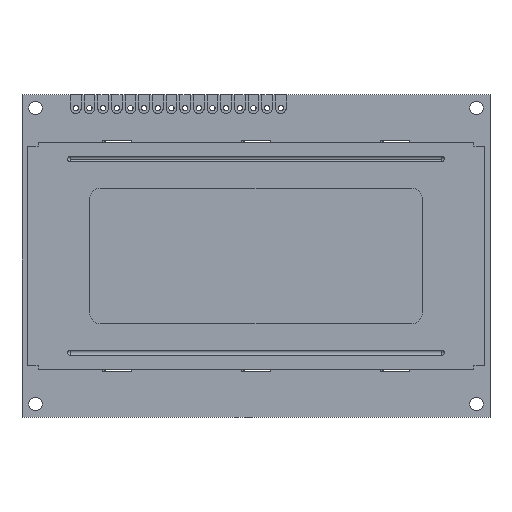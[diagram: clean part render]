
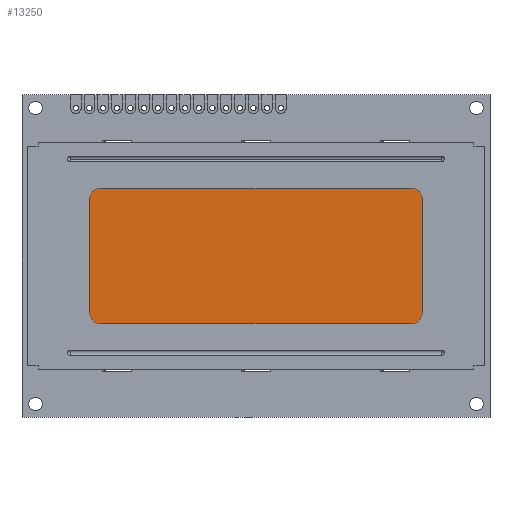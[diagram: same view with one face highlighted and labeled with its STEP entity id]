
A CAD part, top view. The second image highlights one B-rep face of the part: STEP entity #13250.
In plain terms, the highlighted planar face has unit normal (0, 0, 1).
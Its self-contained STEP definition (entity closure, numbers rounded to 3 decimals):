
#143 = DIRECTION ( 'NONE',  ( 1., 0., 0. ) ) ;
#250 = VERTEX_POINT ( 'NONE', #14535 ) ;
#390 = ORIENTED_EDGE ( 'NONE', *, *, #10692, .T. ) ;
#470 = CIRCLE ( 'NONE', #5557, 2. ) ;
#552 = DIRECTION ( 'NONE',  ( 0., 0., 1. ) ) ;
#768 = DIRECTION ( 'NONE',  ( 1., 0., 0. ) ) ;
#903 = CARTESIAN_POINT ( 'NONE',  ( 74.4, 40.6, 9.2 ) ) ;
#996 = VERTEX_POINT ( 'NONE', #13838 ) ;
#1124 = VERTEX_POINT ( 'NONE', #7787 ) ;
#1289 = CARTESIAN_POINT ( 'NONE',  ( 14.6, 40.6, 9.2 ) ) ;
#1362 = ORIENTED_EDGE ( 'NONE', *, *, #3674, .T. ) ;
#1407 = CARTESIAN_POINT ( 'NONE',  ( 72.4, 42.6, 9.2 ) ) ;
#1479 = LINE ( 'NONE', #14284, #11550 ) ;
#1562 = AXIS2_PLACEMENT_3D ( 'NONE', #6258, #11196, #768 ) ;
#1619 = PLANE ( 'NONE',  #1562 ) ;
#1673 = CIRCLE ( 'NONE', #11869, 2. ) ;
#1827 = CARTESIAN_POINT ( 'NONE',  ( 14.6, 19.4, 9.2 ) ) ;
#1930 = CIRCLE ( 'NONE', #6315, 2. ) ;
#2094 = VECTOR ( 'NONE', #4284, 1000. ) ;
#2444 = VERTEX_POINT ( 'NONE', #903 ) ;
#2756 = ORIENTED_EDGE ( 'NONE', *, *, #11340, .T. ) ;
#3065 = LINE ( 'NONE', #14748, #2094 ) ;
#3674 = EDGE_CURVE ( 'NONE', #11141, #250, #8217, .T. ) ;
#3748 = DIRECTION ( 'NONE',  ( 0., 0., 1. ) ) ;
#3841 = VERTEX_POINT ( 'NONE', #4202 ) ;
#3927 = ORIENTED_EDGE ( 'NONE', *, *, #11553, .T. ) ;
#4033 = AXIS2_PLACEMENT_3D ( 'NONE', #11740, #3748, #4807 ) ;
#4066 = CARTESIAN_POINT ( 'NONE',  ( 12.6, 19.4, 9.2 ) ) ;
#4202 = CARTESIAN_POINT ( 'NONE',  ( 72.4, 17.4, 9.2 ) ) ;
#4275 = VERTEX_POINT ( 'NONE', #4066 ) ;
#4284 = DIRECTION ( 'NONE',  ( 0., 1., 0. ) ) ;
#4726 = DIRECTION ( 'NONE',  ( 0., -1., 0. ) ) ;
#4807 = DIRECTION ( 'NONE',  ( 1., 0., 0. ) ) ;
#5156 = CARTESIAN_POINT ( 'NONE',  ( 12.6, 17.4, 9.2 ) ) ;
#5171 = DIRECTION ( 'NONE',  ( 1., 0., 0. ) ) ;
#5218 = ORIENTED_EDGE ( 'NONE', *, *, #14363, .T. ) ;
#5557 = AXIS2_PLACEMENT_3D ( 'NONE', #1289, #5918, #143 ) ;
#5633 = VERTEX_POINT ( 'NONE', #13581 ) ;
#5829 = DIRECTION ( 'NONE',  ( -1., 0., 0. ) ) ;
#5918 = DIRECTION ( 'NONE',  ( 0., 0., 1. ) ) ;
#6105 = CARTESIAN_POINT ( 'NONE',  ( 12.6, 42.6, 9.2 ) ) ;
#6223 = CIRCLE ( 'NONE', #4033, 2. ) ;
#6258 = CARTESIAN_POINT ( 'NONE',  ( 12.6, 42.6, 9.2 ) ) ;
#6315 = AXIS2_PLACEMENT_3D ( 'NONE', #12558, #14875, #14939 ) ;
#7522 = EDGE_CURVE ( 'NONE', #1124, #4275, #1479, .T. ) ;
#7599 = EDGE_CURVE ( 'NONE', #3841, #5633, #6223, .T. ) ;
#7787 = CARTESIAN_POINT ( 'NONE',  ( 12.6, 40.6, 9.2 ) ) ;
#8217 = LINE ( 'NONE', #6105, #15052 ) ;
#8606 = ORIENTED_EDGE ( 'NONE', *, *, #12759, .T. ) ;
#8678 = VECTOR ( 'NONE', #9810, 1000. ) ;
#9810 = DIRECTION ( 'NONE',  ( 1., 0., 0. ) ) ;
#9971 = FACE_OUTER_BOUND ( 'NONE', #11290, .T. ) ;
#10692 = EDGE_CURVE ( 'NONE', #996, #3841, #14565, .T. ) ;
#10759 = ORIENTED_EDGE ( 'NONE', *, *, #7522, .T. ) ;
#11141 = VERTEX_POINT ( 'NONE', #1407 ) ;
#11196 = DIRECTION ( 'NONE',  ( 0., 0., 1. ) ) ;
#11290 = EDGE_LOOP ( 'NONE', ( #5218, #8606, #1362, #3927, #10759, #2756, #390, #13598 ) ) ;
#11340 = EDGE_CURVE ( 'NONE', #4275, #996, #1673, .T. ) ;
#11550 = VECTOR ( 'NONE', #4726, 1000. ) ;
#11553 = EDGE_CURVE ( 'NONE', #250, #1124, #470, .T. ) ;
#11740 = CARTESIAN_POINT ( 'NONE',  ( 72.4, 19.4, 9.2 ) ) ;
#11869 = AXIS2_PLACEMENT_3D ( 'NONE', #1827, #552, #5171 ) ;
#12558 = CARTESIAN_POINT ( 'NONE',  ( 72.4, 40.6, 9.2 ) ) ;
#12759 = EDGE_CURVE ( 'NONE', #2444, #11141, #1930, .T. ) ;
#13250 = ADVANCED_FACE ( 'NONE', ( #9971 ), #1619, .T. ) ;
#13581 = CARTESIAN_POINT ( 'NONE',  ( 74.4, 19.4, 9.2 ) ) ;
#13598 = ORIENTED_EDGE ( 'NONE', *, *, #7599, .T. ) ;
#13838 = CARTESIAN_POINT ( 'NONE',  ( 14.6, 17.4, 9.2 ) ) ;
#14284 = CARTESIAN_POINT ( 'NONE',  ( 12.6, 42.6, 9.2 ) ) ;
#14363 = EDGE_CURVE ( 'NONE', #5633, #2444, #3065, .T. ) ;
#14535 = CARTESIAN_POINT ( 'NONE',  ( 14.6, 42.6, 9.2 ) ) ;
#14565 = LINE ( 'NONE', #5156, #8678 ) ;
#14748 = CARTESIAN_POINT ( 'NONE',  ( 74.4, 42.6, 9.2 ) ) ;
#14875 = DIRECTION ( 'NONE',  ( 0., 0., 1. ) ) ;
#14939 = DIRECTION ( 'NONE',  ( 1., 0., 0. ) ) ;
#15052 = VECTOR ( 'NONE', #5829, 1000. ) ;
